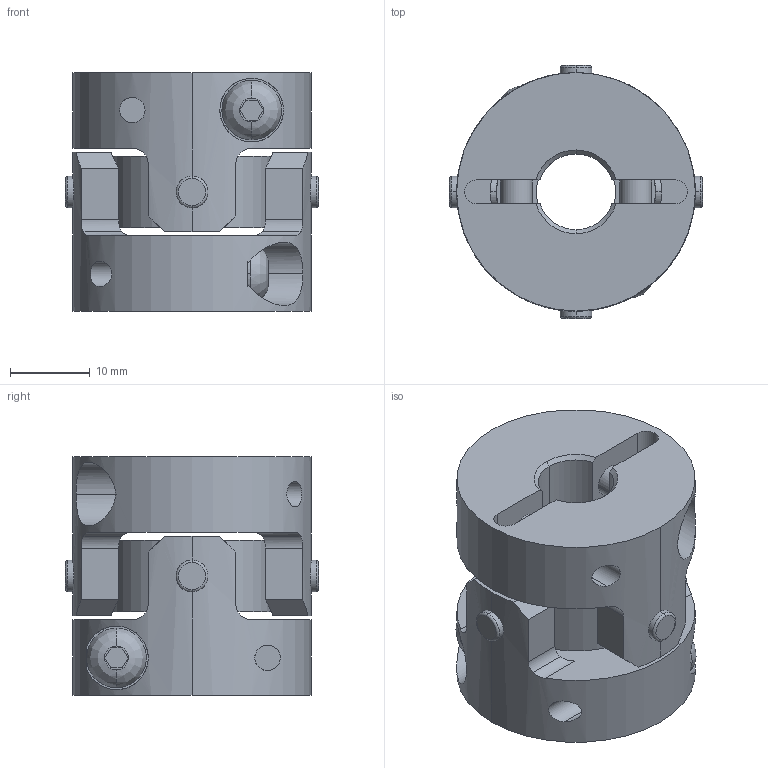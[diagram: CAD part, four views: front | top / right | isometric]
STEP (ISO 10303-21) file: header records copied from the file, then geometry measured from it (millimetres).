
FILE_DESCRIPTION((''),'2;1');
FILE_NAME('UA-30C-9.525×12.stp','2013-11-12T14:31:35',(''),(''),'AutoCAD STEP 2000i','AutoCAD 2000i',', , ');
FILE_SCHEMA(('CONFIG_CONTROL_DESIGN'));
Length unit declared in the file: millimetre
Products named in the file (7): UA-30C-6×11; 忣兜1; UA-3002-D11; BTN-M4; UA-3002-D06-1; UA-3002-D06; UA30-SEN
Assembly tree (8 placements, depth 3):
  UA-30C-6×11
    忣兜1
    UA-3002-D11
      BTN-M4
    UA-3002-D06-1
      BTN-M4
    UA-3002-D06
      BTN-M4
    UA30-SEN
Bounding box: 31.82 x 31.82 x 30 mm (x, y, z)
Volume: 14224.3 mm3; surface area: 8672 mm2
Topology: 1 solids, 1 shells, 206 faces, 554 edges, 364 vertices
Faces by surface type: cylinder 96, plane 78, cone 16, bspline 8, torus 8
Entity records: 8477 total; most frequent: CARTESIAN_POINT 3141, ORIENTED_EDGE 1108, DIRECTION 1068, EDGE_CURVE 554, AXIS2_PLACEMENT_3D 411, VERTEX_POINT 364, VECTOR 246, LINE 246
